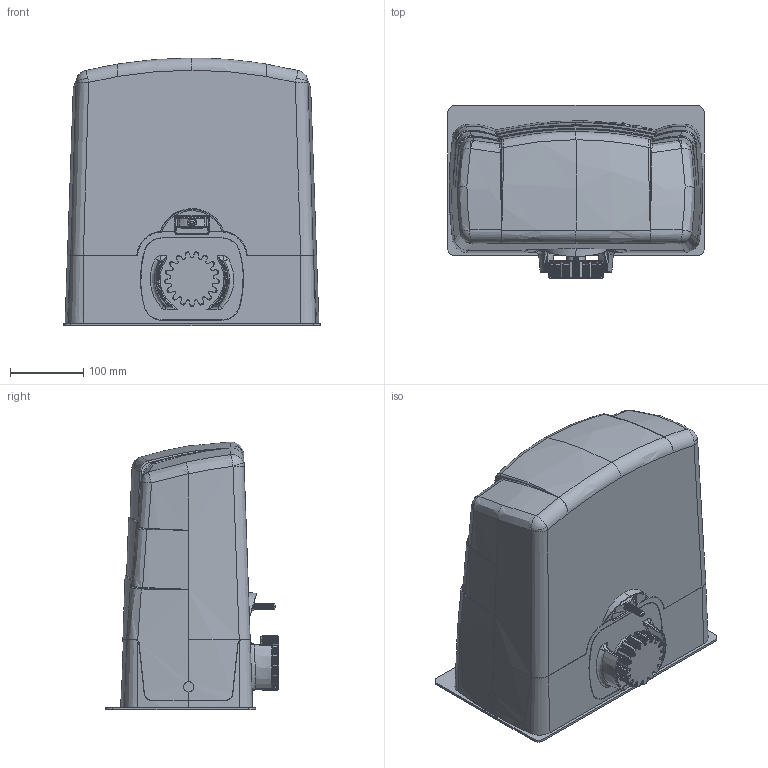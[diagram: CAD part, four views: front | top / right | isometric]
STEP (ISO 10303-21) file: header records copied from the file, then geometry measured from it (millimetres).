
FILE_DESCRIPTION (( 'STEP AP214' ), '1' );
FILE_NAME ('G30 BG30.STEP', '2017-02-21T10:31:39', ( 'admin' ), ( 'Microsoft' ), 'SwSTEP 2.0', 'SolidWorks 2016', '' );
FILE_SCHEMA (( 'AUTOMOTIVE_DESIGN' ));
Length unit declared in the file: millimetre
Products named in the file (1): G30 BG30
Bounding box: 350 x 236 x 365.28 mm (x, y, z)
Volume: 17692763.7 mm3; surface area: 881818 mm2
Topology: 12 solids, 14 shells, 1544 faces, 4266 edges, 2800 vertices
Faces by surface type: plane 467, cylinder 465, bspline 457, cone 155
Entity records: 146781 total; most frequent: CARTESIAN_POINT 110597, ORIENTED_EDGE 8502, DIRECTION 5338, EDGE_CURVE 4251, VERTEX_POINT 2800, AXIS2_PLACEMENT_3D 1934, B_SPLINE_CURVE_WITH_KNOTS 1667, EDGE_LOOP 1611
